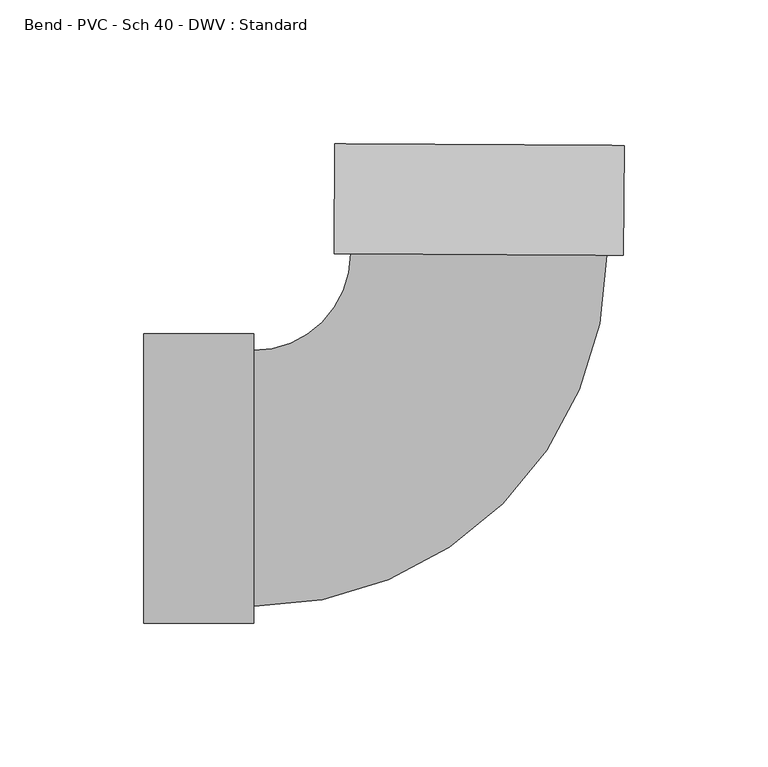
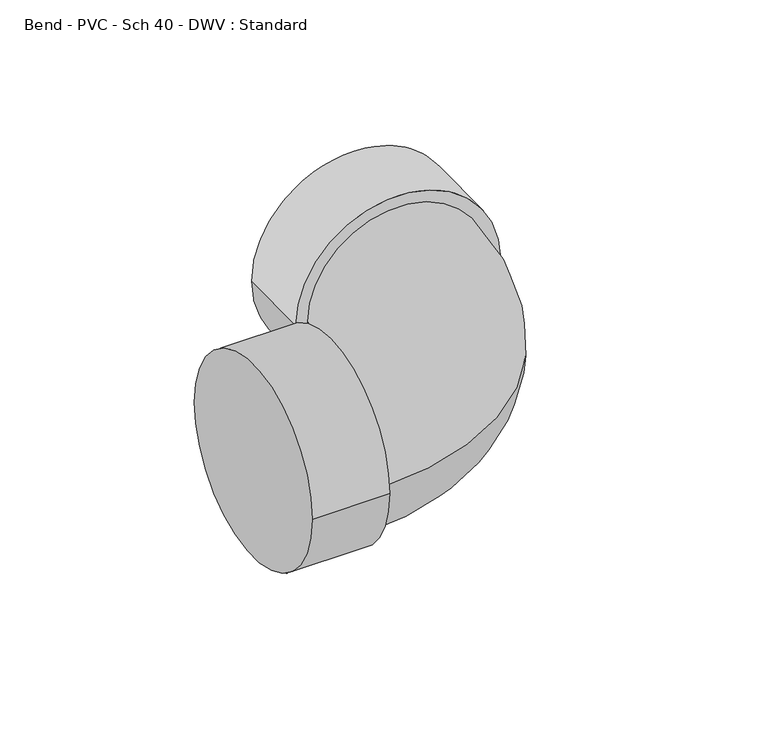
"""IFC4 building model written with IfcOpenShell, lengths in millimetres: pipe fitting geometry, Bend - PVC - Sch 40 - DWV : Standard."""

import ifcopenshell
import ifcopenshell.guid

model = None  # the IFC model being written
_history = None  # IfcOwnerHistory: only IFC2X3 demands one
_inside = {}  # id of a spatial element -> (the spatial element, [elements in it])
_under = {}  # id of a project, library or spatial element -> (it, [spatial elements below it])
_declared = {}  # id of a project -> (the project, [libraries it declares])
_typed = {}  # id of a type object -> (the type object, [elements of that type])
_made_of = {}  # id of a material, layer set ... -> (it, [elements and type objects made of it])


def new_model(schema):
    """Start an empty IFC model of exactly this schema.

    Asked for "IFC4X3", IfcOpenShell would pick the latest addendum, in which some entities
    have other attributes; the version numbers below select the first issue.
    IFC2X3 requires an IfcOwnerHistory on every rooted entity: one is made here for all.
    """
    global model, _history
    if schema == "IFC4X3":
        model = ifcopenshell.file(schema_version=(4, 3, 0, 0))
    else:
        model = ifcopenshell.file(schema=schema)
    _inside.clear()
    _under.clear()
    _declared.clear()
    _typed.clear()
    _made_of.clear()
    _history = None
    if model.schema == "IFC2X3":
        org = make("IfcOrganization", Name="unknown")
        user = make(
            "IfcPersonAndOrganization",
            ThePerson=make("IfcPerson", FamilyName="unknown"),
            TheOrganization=org,
        )
        app = make(
            "IfcApplication",
            ApplicationDeveloper=org,
            Version="unknown",
            ApplicationFullName="unknown",
            ApplicationIdentifier="unknown",
        )
        _history = make(
            "IfcOwnerHistory",
            OwningUser=user,
            OwningApplication=app,
            ChangeAction="ADDED",
            CreationDate=0,
        )
    return model


def make(cls, **values):
    """One entity of the class cls with the attributes given. An attribute that is None is left unset."""
    return model.create_entity(
        cls, **{name: value for name, value in values.items() if value is not None}
    )


def rooted(cls, **values):
    """An entity with a GlobalId (a new one), such as an element, a storey or a relation."""
    return make(cls, GlobalId=ifcopenshell.guid.new(), OwnerHistory=_history, **values)


def si_unit(unit_type, name, prefix=None):
    """IfcSIUnit, for example si_unit("LENGTHUNIT", "METRE", prefix="MILLI")."""
    return make("IfcSIUnit", UnitType=unit_type, Prefix=prefix, Name=name)


def assignment(units):
    """IfcUnitAssignment: the units of a project."""
    return None if units is None else make("IfcUnitAssignment", Units=units)


def point(xyz):
    """IfcCartesianPoint."""
    return None if xyz is None else make("IfcCartesianPoint", Coordinates=xyz)


def direction(xyz):
    """IfcDirection."""
    return None if xyz is None else make("IfcDirection", DirectionRatios=xyz)


def frame(location, z_axis=None, x_axis=None):
    """IfcAxis2Placement3D, a coordinate frame: its origin and axes. An axis left out is left unset."""
    return make(
        "IfcAxis2Placement3D",
        Location=point(location),
        Axis=direction(z_axis),
        RefDirection=direction(x_axis),
    )


def origin():
    """The frame at (0, 0, 0) with its axes left unset."""
    return frame((0.0, 0.0, 0.0))


def place(relative_to, where):
    """IfcLocalPlacement: puts the frame where relative to a parent placement (None: the world)."""
    return make(
        "IfcLocalPlacement", PlacementRelTo=relative_to, RelativePlacement=where
    )


def context(
    kind, dimensions, precision=None, world=None, true_north=None, identifier=None
):
    """IfcGeometricRepresentationContext, for example the 3D "Model" context."""
    return make(
        "IfcGeometricRepresentationContext",
        ContextIdentifier=identifier,
        ContextType=kind,
        CoordinateSpaceDimension=dimensions,
        Precision=precision,
        WorldCoordinateSystem=world,
        TrueNorth=true_north,
    )


def project(units=None, contexts=None):
    """IfcProject with its units and contexts."""
    return rooted(
        "IfcProject",
        Name="project",
        RepresentationContexts=contexts,
        UnitsInContext=assignment(units),
    )


def spatial(cls, under=None, at=None, **own):
    """A site, building, storey or space (cls), placed at a placement, below another one or the project."""
    s = rooted(cls, ObjectPlacement=at, **own)
    if under is not None:
        _under.setdefault(under.id(), (under, []))[1].append(s)
    return s


def circle_curve(where, radius):
    """IfcCircle in the frame where."""
    return make("IfcCircle", Position=where, Radius=radius)


def ellipse_curve(where, semi_axis1, semi_axis2):
    """IfcEllipse in the frame where."""
    return make(
        "IfcEllipse", Position=where, SemiAxis1=semi_axis1, SemiAxis2=semi_axis2
    )


def trimmed(basis, trim1, trim2, sense, master):
    """IfcTrimmedCurve: the piece of a basis curve between two trims."""
    return make(
        "IfcTrimmedCurve",
        BasisCurve=basis,
        Trim1=trim1,
        Trim2=trim2,
        SenseAgreement=sense,
        MasterRepresentation=master,
    )


def shape(context_of_items, identifier, shape_type, items):
    """IfcShapeRepresentation: the items that make up one representation, for example the "Body"."""
    return make(
        "IfcShapeRepresentation",
        ContextOfItems=context_of_items,
        RepresentationIdentifier=identifier,
        RepresentationType=shape_type,
        Items=items,
    )


def source(mapping_origin, context_of_items, identifier, shape_type, items):
    """IfcRepresentationMap: a shape defined once, which mapped items show again and again."""
    return make(
        "IfcRepresentationMap",
        MappingOrigin=mapping_origin,
        MappedRepresentation=shape(context_of_items, identifier, shape_type, items),
    )


def transform(
    local_origin,
    x_axis=None,
    y_axis=None,
    z_axis=None,
    scale=None,
    scale2=None,
    scale3=None,
    uniform=True,
):
    """IfcCartesianTransformationOperator3D, or its non-uniform kind. x_axis, y_axis, z_axis: its Axis1, 2, 3."""
    if uniform:
        return make(
            "IfcCartesianTransformationOperator3D",
            Axis1=direction(x_axis),
            Axis2=direction(y_axis),
            LocalOrigin=point(local_origin),
            Scale=scale,
            Axis3=direction(z_axis),
        )
    return make(
        "IfcCartesianTransformationOperator3DnonUniform",
        Axis1=direction(x_axis),
        Axis2=direction(y_axis),
        LocalOrigin=point(local_origin),
        Scale=scale,
        Axis3=direction(z_axis),
        Scale2=scale2,
        Scale3=scale3,
    )


def mapped(mapping_source, mapping_target):
    """IfcMappedItem: shows the shape of a source again, moved by a transform."""
    return make(
        "IfcMappedItem", MappingSource=mapping_source, MappingTarget=mapping_target
    )


def made_of(thing, what):
    """Note that an element or type object is made of a material, layer set ...; save() writes the relation."""
    if what is not None:
        _made_of.setdefault(what.id(), (what, []))[1].append(thing)
    return thing


def element(
    cls,
    number,
    at=None,
    inside=None,
    cuts=None,
    type_object=None,
    material=None,
    context=None,
    identifier="Body",
    shape_type=None,
    held_by="IfcProductDefinitionShape",
    body=None,
    shapes=None,
    **own,
):
    """One element of the class cls, such as IfcWall. Its Tag is "e" and its number.

    at: its placement. inside: the storey or other place that contains it. cuts: it is an
    opening in that element (IfcRelVoidsElement). A single representation is given by context,
    identifier, shape_type and body (its items); several are given by shapes. held_by: the class
    of the entity that holds the representations. save() writes the other relations.
    """
    e = rooted(cls, Tag="e%d" % number, ObjectPlacement=at, **own)
    if body is not None:
        shapes = [shape(context, identifier, shape_type, body)]
    if shapes is not None:
        e.Representation = make(held_by, Representations=shapes)
    if inside is not None:
        _inside.setdefault(inside.id(), (inside, []))[1].append(e)
    if cuts is not None:
        rooted(
            "IfcRelVoidsElement", RelatingBuildingElement=cuts, RelatedOpeningElement=e
        )
    if type_object is not None:
        _typed.setdefault(type_object.id(), (type_object, []))[1].append(e)
    return made_of(e, material)


def aggregate(whole, parts):
    """IfcRelAggregates: a whole, such as a stair, and the parts it consists of."""
    return rooted("IfcRelAggregates", RelatingObject=whole, RelatedObjects=parts)


def save(model, path):
    """Write the relations noted so far, then the file.

    IfcRelAggregates (storeys below a building ...), IfcRelContainedInSpatialStructure (elements
    in a storey), IfcRelDefinesByType, IfcRelAssociatesMaterial and IfcRelDeclares: one each for
    every whole, place, type object, material and project.
    """
    for whole, parts in _under.values():
        aggregate(whole, parts)
    for where, things in _inside.values():
        rooted(
            "IfcRelContainedInSpatialStructure",
            RelatedElements=things,
            RelatingStructure=where,
        )
    for kind, things in _typed.values():
        rooted("IfcRelDefinesByType", RelatedObjects=things, RelatingType=kind)
    for what, things in _made_of.values():
        rooted("IfcRelAssociatesMaterial", RelatedObjects=things, RelatingMaterial=what)
    for by, libraries in _declared.values():
        rooted("IfcRelDeclares", RelatingContext=by, RelatedDefinitions=libraries)
    model.write(path)


def plane_surface(at):
    """IfcPlane: the flat surface through the origin of the frame at, square to its z axis."""
    return make("IfcPlane", Position=at)


def cylinder_surface(at, radius):
    """IfcCylindricalSurface: all points at the distance radius from the z axis of the frame at."""
    return make("IfcCylindricalSurface", Position=at, Radius=radius)


def revolved_surface(curve, axis_point, axis_direction):
    """IfcSurfaceOfRevolution: the curve turned about the line through axis_point along axis_direction."""
    return make(
        "IfcSurfaceOfRevolution",
        SweptCurve=make("IfcArbitraryOpenProfileDef", ProfileType="CURVE", Curve=curve),
        AxisPosition=make("IfcAxis1Placement", Location=point(axis_point), Axis=direction(axis_direction)),
    )


def advanced_brep(points, edges, surfaces, faces):
    """IfcAdvancedBrep: a solid bounded by faces that lie on surfaces and meet in shared edges.

    An edge is (start, end): straight between two places in points (the first is 0);
    or (start, end, curve); or (start, end, curve, False) where it runs against its curve.
    A face is (place in surfaces, loops), or (place, loops, False) where it looks against
    its surface's normal. A loop lists edges by number (the first is 1), with a minus sign
    where the edge is run from its end to its start. The first loop is the outer one.
    """
    corners = [point(p) for p in points]
    vertices = [make("IfcVertexPoint", VertexGeometry=c) for c in corners]
    made = []
    for start, end, *more in edges:
        made.append(
            make(
                "IfcEdgeCurve",
                EdgeStart=vertices[start],
                EdgeEnd=vertices[end],
                EdgeGeometry=more[0] if more else make("IfcPolyline", Points=[corners[start], corners[end]]),
                SameSense=more[1] if len(more) > 1 else True,
            )
        )
    hull = []
    for where, loops, *sense in faces:
        bounds = []
        for j, loop in enumerate(loops):
            ring = [make("IfcOrientedEdge", EdgeElement=made[abs(k) - 1], Orientation=k > 0) for k in loop]
            bounds.append(
                make(
                    "IfcFaceOuterBound" if j == 0 else "IfcFaceBound",
                    Bound=make("IfcEdgeLoop", EdgeList=ring),
                    Orientation=True,
                )
            )
        hull.append(make("IfcAdvancedFace", Bounds=bounds, FaceSurface=surfaces[where], SameSense=sense[0] if sense else True))
    return make("IfcAdvancedBrep", Outer=make("IfcClosedShell", CfsFaces=hull))


def bend_pvc_sch_40_dwv_standard_bec85717(model_context):
    return source(origin(), model_context, "Body", "AdvancedBrep", [
        advanced_brep(
        [(-115.9002, -50.2666, 0.0), (-115.9002, 50.2666, 0.0), (-77.8002, -50.2666, 0.0), (-77.8002, 50.2666, 0.0), (-77.8002, -44.45, 0.0), (-77.8002, 44.45, 0.0), (-44.0110083, 78.0493739, 0.0), (44.887581, 77.548557, 0.0), (50.7040887, 77.5157893, 0.0), (-49.827516, 78.0821416, 0.0), (50.9187245, 115.6151847, 0.0), (-49.6128802, 116.1815371, 0.0)],
        [
            (0, 1, circle_curve(frame((-115.9002, 0.0, 0.0), z_axis=(-1.0, 0.0, 0.0), x_axis=(0.0, 1.0, 0.0)), 50.2666)),
            (1, 0, circle_curve(frame((-115.9002, 0.0, 0.0), z_axis=(-1.0, 0.0, 0.0), x_axis=(0.0, 1.0, 0.0)), 50.2666)),
            (2, 3, circle_curve(frame((-77.8002, 0.0, 0.0), z_axis=(1.0, 0.0, 0.0), x_axis=(0.0, 1.0, 0.0)), 50.2666)),
            (3, 2, circle_curve(frame((-77.8002, 0.0, 0.0), z_axis=(1.0, 0.0, 0.0), x_axis=(0.0, 1.0, 0.0)), 50.2666)),
            (4, 5, circle_curve(frame((-77.8002, 0.0, 0.0), z_axis=(-1.0, 0.0, 0.0), x_axis=(0.0, 1.0, 0.0)), 44.45)),
            (5, 4, circle_curve(frame((-77.8002, 0.0, 0.0), z_axis=(-1.0, 0.0, 0.0), x_axis=(0.0, 1.0, 0.0)), 44.45)),
            (0, 2),
            (3, 1),
            (6, 5, circle_curve(frame((-77.8002, 78.2397279, 0.0), z_axis=(0.0, 0.0, -1.0), x_axis=(0.0, -1.0, 0.0)), 33.7897279)),
            (4, 7, circle_curve(frame((-77.8002, 78.2397279, 0.0), z_axis=(0.0, 0.0, 1.0), x_axis=(0.0, -1.0, 0.0)), 122.6897279)),
            (7, 6, circle_curve(frame((0.4382863, 77.7989655, 0.0), z_axis=(-0.005633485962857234, -0.9999841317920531, 0.0), x_axis=(-0.9999841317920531, 0.005633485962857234, 0.0)), 44.45)),
            (6, 7, circle_curve(frame((0.4382863, 77.7989655, 0.0), z_axis=(-0.005633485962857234, -0.9999841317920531, 0.0), x_axis=(-0.9999841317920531, 0.005633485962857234, 0.0)), 44.45)),
            (8, 9, circle_curve(frame((0.4382863, 77.7989655, 0.0), z_axis=(-0.005633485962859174, -0.9999841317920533, 0.0), x_axis=(-0.9999841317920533, 0.005633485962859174, 0.0)), 50.2666)),
            (9, 8, circle_curve(frame((0.4382863, 77.7989655, 0.0), z_axis=(-0.005633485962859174, -0.9999841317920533, 0.0), x_axis=(-0.9999841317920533, 0.005633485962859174, 0.0)), 50.2666)),
            (10, 11, circle_curve(frame((0.6529221, 115.8983609, 0.0), z_axis=(0.005633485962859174, 0.9999841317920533, 0.0), x_axis=(-0.9999841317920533, 0.005633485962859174, 0.0)), 50.2666)),
            (11, 10, circle_curve(frame((0.6529221, 115.8983609, 0.0), z_axis=(0.005633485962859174, 0.9999841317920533, 0.0), x_axis=(-0.9999841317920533, 0.005633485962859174, 0.0)), 50.2666)),
            (8, 10),
            (11, 9),
        ],
        [
            plane_surface(frame((-115.9002, 0.0, 0.0), z_axis=(-1.0, 0.0, 0.0), x_axis=(0.0, 0.0, 1.0))),
            plane_surface(frame((-77.8002, 0.0, 0.0), z_axis=(1.0, 0.0, 0.0), x_axis=(0.0, 0.0, 1.0))),
            cylinder_surface(frame((-115.9002, 0.0, 0.0), z_axis=(-1.0, 0.0, 0.0), x_axis=(0.0, 1.0, 0.0)), 50.2666),
            revolved_surface(trimmed(ellipse_curve(frame((-77.8002, 0.0, 0.0), z_axis=(-1.0, 0.0, 0.0), x_axis=(0.0, 1.0, 0.0)), 44.45, 44.45), [point((-77.8002, -44.45, 0.0))], [point((-77.8002, 44.45, 0.0))], True, "CARTESIAN"), (-77.8002, 78.2397279, 0.0), (0.0, 0.0, 1.0)),
            revolved_surface(trimmed(ellipse_curve(frame((-77.8002, 0.0, 0.0), z_axis=(-1.0, 0.0, 0.0), x_axis=(0.0, 1.0, 0.0)), 44.45, 44.45), [point((-77.8002, 44.45, 0.0))], [point((-77.8002, -44.45, 0.0))], True, "CARTESIAN"), (-77.8002, 78.2397279, 0.0), (0.0, 0.0, 1.0)),
            plane_surface(frame((0.4382863, 77.7989655, 0.0), z_axis=(-0.005633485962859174, -0.9999841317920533, 0.0), x_axis=(0.0, 0.0, 1.0))),
            plane_surface(frame((0.6529221, 115.8983609, 0.0), z_axis=(0.005633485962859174, 0.9999841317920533, 0.0), x_axis=(0.0, 0.0, 1.0))),
            cylinder_surface(frame((0.4382863, 77.7989655, 0.0), z_axis=(-0.005633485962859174, -0.9999841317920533, 0.0), x_axis=(-0.9999841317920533, 0.005633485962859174, 0.0)), 50.2666),
        ],
        [
            (0, [[1, 2]]),
            (1, [[3, 4], [5, 6]]),
            (2, [[-1, 7, -4, 8]]),
            (2, [[-2, -8, -3, -7]]),
            (3, [[9, -5, 10, 11]]),
            (4, [[-9, 12, -10, -6]]),
            (5, [[13, 14], [-11, -12]]),
            (6, [[15, 16]]),
            (7, [[-13, 17, -16, 18]]),
            (7, [[-14, -18, -15, -17]]),
        ],
    ),
    ])


if __name__ == "__main__":
    model = new_model("IFC4")
    model_context = context("Model", 3, world=origin())
    ifc_project = project(units=[si_unit("LENGTHUNIT", "METRE", prefix="MILLI")], contexts=[model_context])
    site = spatial("IfcSite", under=ifc_project)
    building = spatial("IfcBuilding", under=site)
    placement = place(None, origin())
    bend_pvc_sch_40_dwv_standard_shape = bend_pvc_sch_40_dwv_standard_bec85717(model_context)
    element("IfcPipeFitting", 1, ObjectType="Bend - PVC - Sch 40 - DWV : Standard", at=placement, inside=building, context=model_context, shape_type="MappedRepresentation", body=[
        mapped(bend_pvc_sch_40_dwv_standard_shape, transform((0.0, 0.0, 0.0), x_axis=(1.0, 0.0, 0.0), y_axis=(0.0, 1.0, 0.0), z_axis=(0.0, 0.0, 1.0))),
    ])
    save(model, "model.ifc")
